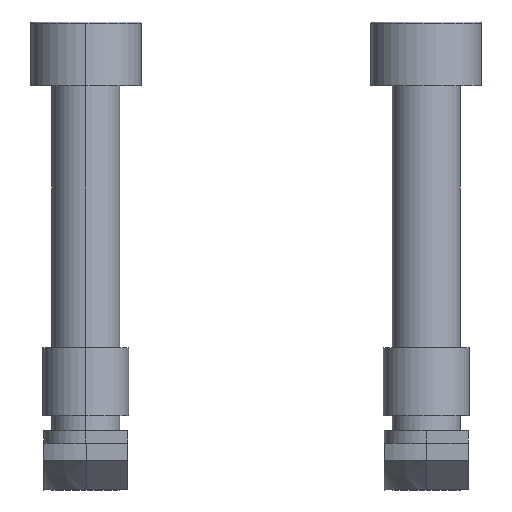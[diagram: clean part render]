
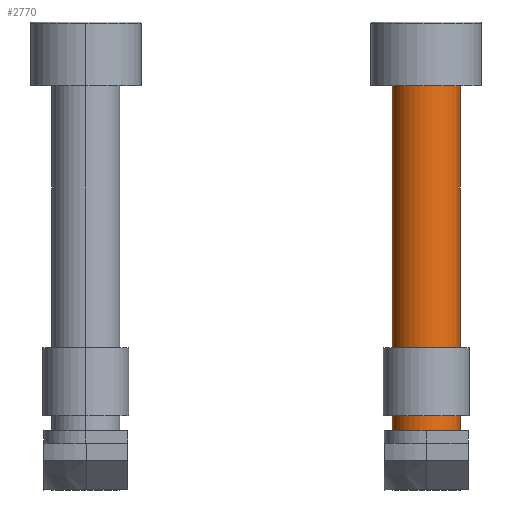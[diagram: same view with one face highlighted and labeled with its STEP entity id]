
A CAD part, front view. The second image highlights one B-rep face of the part: STEP entity #2770.
In plain terms, the highlighted cylindrical face has radius 4 mm (diameter 8 mm), a partial arc.
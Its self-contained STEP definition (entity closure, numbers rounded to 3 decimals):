
#19 = DIRECTION ( 'NONE',  ( 1., 0., 0. ) ) ;
#21 = AXIS2_PLACEMENT_3D ( 'NONE', #2575, #2576, #2633 ) ;
#28 = EDGE_CURVE ( 'NONE', #418, #1987, #794, .T. ) ;
#121 = CIRCLE ( 'NONE', #21, 4. ) ;
#352 = VECTOR ( 'NONE', #675, 1000. ) ;
#366 = ORIENTED_EDGE ( 'NONE', *, *, #28, .F. ) ;
#418 = VERTEX_POINT ( 'NONE', #1548 ) ;
#468 = ORIENTED_EDGE ( 'NONE', *, *, #1560, .T. ) ;
#532 = CARTESIAN_POINT ( 'NONE',  ( 20., 0., -4.5 ) ) ;
#543 = DIRECTION ( 'NONE',  ( 0., 0., 1. ) ) ;
#556 = CARTESIAN_POINT ( 'NONE',  ( 20., 0., -12.5 ) ) ;
#570 = DIRECTION ( 'NONE',  ( 1., 0., 0. ) ) ;
#675 = DIRECTION ( 'NONE',  ( 0., 0., 1. ) ) ;
#701 = CARTESIAN_POINT ( 'NONE',  ( 24., 0., -4.5 ) ) ;
#794 = LINE ( 'NONE', #885, #837 ) ;
#837 = VECTOR ( 'NONE', #1092, 1000. ) ;
#855 = FACE_OUTER_BOUND ( 'NONE', #2072, .T. ) ;
#885 = CARTESIAN_POINT ( 'NONE',  ( 16., 0., -12.5 ) ) ;
#915 = EDGE_CURVE ( 'NONE', #418, #2629, #1181, .T. ) ;
#1046 = CARTESIAN_POINT ( 'NONE',  ( 24., 0., -12.5 ) ) ;
#1092 = DIRECTION ( 'NONE',  ( 0., 0., 1. ) ) ;
#1181 = CIRCLE ( 'NONE', #1939, 4. ) ;
#1289 = LINE ( 'NONE', #1046, #352 ) ;
#1338 = CARTESIAN_POINT ( 'NONE',  ( 24., 0., 36. ) ) ;
#1445 = AXIS2_PLACEMENT_3D ( 'NONE', #556, #543, #570 ) ;
#1542 = EDGE_CURVE ( 'NONE', #2629, #2333, #1289, .T. ) ;
#1548 = CARTESIAN_POINT ( 'NONE',  ( 16., 0., -4.5 ) ) ;
#1560 = EDGE_CURVE ( 'NONE', #2333, #1987, #121, .T. ) ;
#1614 = DIRECTION ( 'NONE',  ( 0., 0., 1. ) ) ;
#1863 = CARTESIAN_POINT ( 'NONE',  ( 16., 0., 36. ) ) ;
#1939 = AXIS2_PLACEMENT_3D ( 'NONE', #532, #1614, #19 ) ;
#1987 = VERTEX_POINT ( 'NONE', #1863 ) ;
#2072 = EDGE_LOOP ( 'NONE', ( #366, #2283, #2886, #468 ) ) ;
#2283 = ORIENTED_EDGE ( 'NONE', *, *, #915, .T. ) ;
#2333 = VERTEX_POINT ( 'NONE', #1338 ) ;
#2575 = CARTESIAN_POINT ( 'NONE',  ( 20., 0., 36. ) ) ;
#2576 = DIRECTION ( 'NONE',  ( 0., 0., -1. ) ) ;
#2629 = VERTEX_POINT ( 'NONE', #701 ) ;
#2633 = DIRECTION ( 'NONE',  ( -1., 0., 0. ) ) ;
#2734 = CYLINDRICAL_SURFACE ( 'NONE', #1445, 4. ) ;
#2770 = ADVANCED_FACE ( 'NONE', ( #855 ), #2734, .T. ) ;
#2886 = ORIENTED_EDGE ( 'NONE', *, *, #1542, .T. ) ;
